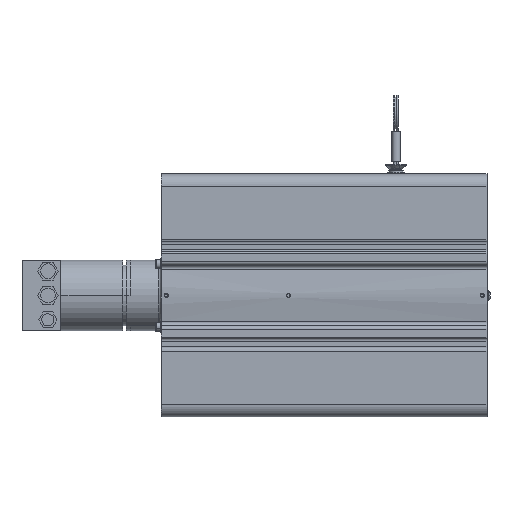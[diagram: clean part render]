
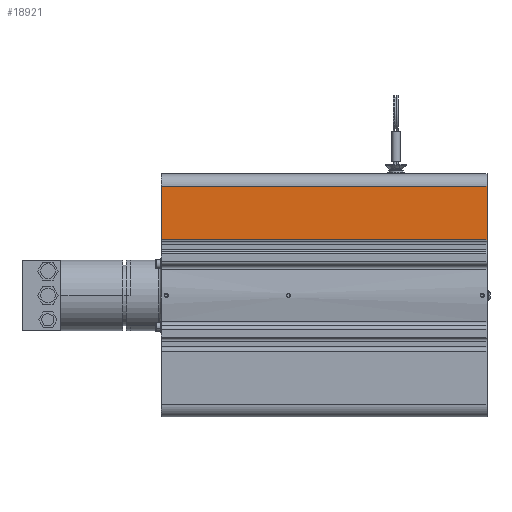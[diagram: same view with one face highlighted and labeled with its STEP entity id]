
A CAD part, front view. The second image highlights one B-rep face of the part: STEP entity #18921.
In plain terms, the highlighted planar face has unit normal (0, -1, 0).
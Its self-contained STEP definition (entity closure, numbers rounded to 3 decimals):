
#408=DIRECTION('',(0.,0.,1.));
#409=VECTOR('',#408,44.275);
#410=CARTESIAN_POINT('',(0.,-99.95,45.725));
#411=LINE('',#410,#409);
#5058=DIRECTION('',(1.,0.,0.));
#5059=VECTOR('',#5058,268.);
#5060=CARTESIAN_POINT('',(-268.,-99.95,45.725));
#5061=LINE('',#5060,#5059);
#5062=DIRECTION('',(0.,0.,1.));
#5063=VECTOR('',#5062,44.275);
#5064=CARTESIAN_POINT('',(-268.,-99.95,45.725));
#5065=LINE('',#5064,#5063);
#5070=DIRECTION('',(-1.,0.,0.));
#5071=VECTOR('',#5070,268.);
#5072=CARTESIAN_POINT('',(0.,-99.95,90.));
#5073=LINE('',#5072,#5071);
#12241=CARTESIAN_POINT('',(0.,-99.95,45.725));
#12242=VERTEX_POINT('',#12241);
#12243=CARTESIAN_POINT('',(0.,-99.95,90.));
#12244=VERTEX_POINT('',#12243);
#12919=CARTESIAN_POINT('',(-268.,-99.95,90.));
#12920=VERTEX_POINT('',#12919);
#12921=CARTESIAN_POINT('',(-268.,-99.95,45.725));
#12922=VERTEX_POINT('',#12921);
#18909=CARTESIAN_POINT('',(0.,-99.95,100.));
#18910=DIRECTION('',(0.,-1.,0.));
#18911=DIRECTION('',(0.,0.,-1.));
#18912=AXIS2_PLACEMENT_3D('',#18909,#18910,#18911);
#18913=PLANE('',#18912);
#18914=ORIENTED_EDGE('',*,*,#18904,.F.);
#18915=ORIENTED_EDGE('',*,*,#13929,.T.);
#18917=ORIENTED_EDGE('',*,*,#18916,.F.);
#18918=ORIENTED_EDGE('',*,*,#13271,.F.);
#18919=EDGE_LOOP('',(#18914,#18915,#18917,#18918));
#18920=FACE_OUTER_BOUND('',#18919,.F.);
#18921=ADVANCED_FACE('',(#18920),#18913,.T.);
#13271=EDGE_CURVE('',#12242,#12244,#411,.T.);
#13929=EDGE_CURVE('',#12922,#12920,#5065,.T.);
#18904=EDGE_CURVE('',#12922,#12242,#5061,.T.);
#18916=EDGE_CURVE('',#12244,#12920,#5073,.T.);
